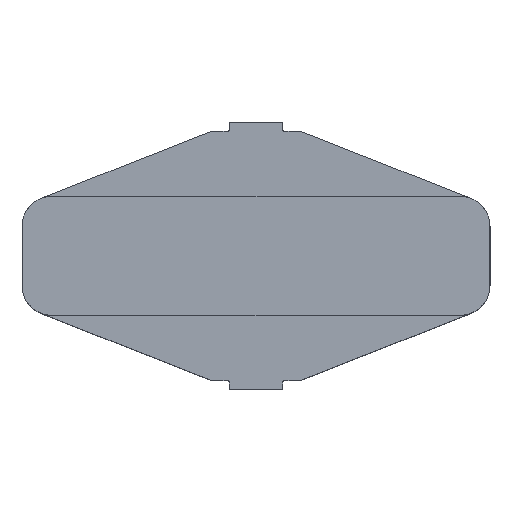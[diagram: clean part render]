
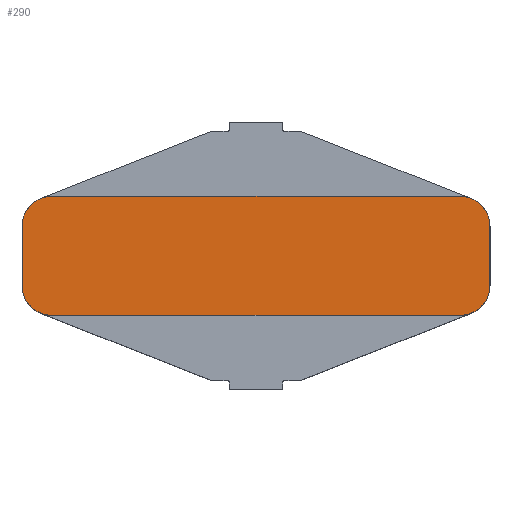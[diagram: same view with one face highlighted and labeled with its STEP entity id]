
A CAD part, top view. The second image highlights one B-rep face of the part: STEP entity #290.
In plain terms, the highlighted planar face has unit normal (0, 0, 1).
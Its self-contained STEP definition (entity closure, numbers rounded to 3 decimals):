
#5 = EDGE_CURVE ( 'NONE', #1210, #810, #294, .T. ) ;
#39 = EDGE_CURVE ( 'NONE', #810, #1369, #1218, .T. ) ;
#45 = DIRECTION ( 'NONE',  ( 0., -1., 0. ) ) ;
#78 = EDGE_CURVE ( 'NONE', #1343, #314, #310, .T. ) ;
#92 = ORIENTED_EDGE ( 'NONE', *, *, #1416, .T. ) ;
#132 = LINE ( 'NONE', #323, #444 ) ;
#147 = ORIENTED_EDGE ( 'NONE', *, *, #78, .T. ) ;
#163 = VERTEX_POINT ( 'NONE', #240 ) ;
#169 = CARTESIAN_POINT ( 'NONE',  ( -39.4, -5., 11.25 ) ) ;
#192 = CIRCLE ( 'NONE', #618, 5. ) ;
#195 = DIRECTION ( 'NONE',  ( 0., 1., 0. ) ) ;
#228 = VERTEX_POINT ( 'NONE', #477 ) ;
#240 = CARTESIAN_POINT ( 'NONE',  ( 34.4, -10., 11.25 ) ) ;
#257 = EDGE_CURVE ( 'NONE', #314, #838, #516, .T. ) ;
#274 = DIRECTION ( 'NONE',  ( 0., 0., 1. ) ) ;
#290 = ADVANCED_FACE ( 'NONE', ( #804 ), #1248, .T. ) ;
#294 = CIRCLE ( 'NONE', #425, 5. ) ;
#310 = LINE ( 'NONE', #869, #1136 ) ;
#314 = VERTEX_POINT ( 'NONE', #169 ) ;
#323 = CARTESIAN_POINT ( 'NONE',  ( -39.4, -10., 11.25 ) ) ;
#367 = AXIS2_PLACEMENT_3D ( 'NONE', #981, #274, #746 ) ;
#421 = DIRECTION ( 'NONE',  ( 1., 0., 0. ) ) ;
#422 = VECTOR ( 'NONE', #1265, 1000. ) ;
#425 = AXIS2_PLACEMENT_3D ( 'NONE', #1286, #952, #916 ) ;
#444 = VECTOR ( 'NONE', #760, 1000. ) ;
#477 = CARTESIAN_POINT ( 'NONE',  ( 39.4, -5., 11.25 ) ) ;
#515 = EDGE_CURVE ( 'NONE', #838, #163, #132, .T. ) ;
#516 = CIRCLE ( 'NONE', #1141, 5. ) ;
#557 = AXIS2_PLACEMENT_3D ( 'NONE', #1458, #614, #1096 ) ;
#604 = CARTESIAN_POINT ( 'NONE',  ( -34.4, 10., 11.25 ) ) ;
#609 = ORIENTED_EDGE ( 'NONE', *, *, #1288, .T. ) ;
#614 = DIRECTION ( 'NONE',  ( 0., 0., 1. ) ) ;
#618 = AXIS2_PLACEMENT_3D ( 'NONE', #1097, #1452, #662 ) ;
#662 = DIRECTION ( 'NONE',  ( 1., 0., 0. ) ) ;
#671 = ORIENTED_EDGE ( 'NONE', *, *, #39, .T. ) ;
#728 = EDGE_LOOP ( 'NONE', ( #147, #1158, #1393, #92, #609, #769, #671, #762 ) ) ;
#732 = CARTESIAN_POINT ( 'NONE',  ( 39.4, 10., 11.25 ) ) ;
#746 = DIRECTION ( 'NONE',  ( 1., 0., 0. ) ) ;
#760 = DIRECTION ( 'NONE',  ( 1., 0., 0. ) ) ;
#762 = ORIENTED_EDGE ( 'NONE', *, *, #857, .T. ) ;
#769 = ORIENTED_EDGE ( 'NONE', *, *, #5, .T. ) ;
#804 = FACE_OUTER_BOUND ( 'NONE', #728, .T. ) ;
#810 = VERTEX_POINT ( 'NONE', #1060 ) ;
#825 = CIRCLE ( 'NONE', #557, 5. ) ;
#834 = LINE ( 'NONE', #732, #1205 ) ;
#838 = VERTEX_POINT ( 'NONE', #1451 ) ;
#857 = EDGE_CURVE ( 'NONE', #1369, #1343, #192, .T. ) ;
#869 = CARTESIAN_POINT ( 'NONE',  ( -39.4, 10., 11.25 ) ) ;
#893 = DIRECTION ( 'NONE',  ( 0., 0., 1. ) ) ;
#916 = DIRECTION ( 'NONE',  ( 1., 0., 0. ) ) ;
#944 = CARTESIAN_POINT ( 'NONE',  ( -34.4, -5., 11.25 ) ) ;
#952 = DIRECTION ( 'NONE',  ( 0., 0., 1. ) ) ;
#981 = CARTESIAN_POINT ( 'NONE',  ( 0., 0., 11.25 ) ) ;
#1060 = CARTESIAN_POINT ( 'NONE',  ( 34.4, 10., 11.25 ) ) ;
#1071 = CARTESIAN_POINT ( 'NONE',  ( -39.4, 10., 11.25 ) ) ;
#1096 = DIRECTION ( 'NONE',  ( 1., 0., 0. ) ) ;
#1097 = CARTESIAN_POINT ( 'NONE',  ( -34.4, 5., 11.25 ) ) ;
#1117 = CARTESIAN_POINT ( 'NONE',  ( -39.4, 5., 11.25 ) ) ;
#1136 = VECTOR ( 'NONE', #45, 1000. ) ;
#1141 = AXIS2_PLACEMENT_3D ( 'NONE', #944, #893, #421 ) ;
#1158 = ORIENTED_EDGE ( 'NONE', *, *, #257, .T. ) ;
#1205 = VECTOR ( 'NONE', #195, 1000. ) ;
#1210 = VERTEX_POINT ( 'NONE', #1424 ) ;
#1218 = LINE ( 'NONE', #1071, #422 ) ;
#1248 = PLANE ( 'NONE',  #367 ) ;
#1265 = DIRECTION ( 'NONE',  ( -1., 0., 0. ) ) ;
#1286 = CARTESIAN_POINT ( 'NONE',  ( 34.4, 5., 11.25 ) ) ;
#1288 = EDGE_CURVE ( 'NONE', #228, #1210, #834, .T. ) ;
#1343 = VERTEX_POINT ( 'NONE', #1117 ) ;
#1369 = VERTEX_POINT ( 'NONE', #604 ) ;
#1393 = ORIENTED_EDGE ( 'NONE', *, *, #515, .T. ) ;
#1416 = EDGE_CURVE ( 'NONE', #163, #228, #825, .T. ) ;
#1424 = CARTESIAN_POINT ( 'NONE',  ( 39.4, 5., 11.25 ) ) ;
#1451 = CARTESIAN_POINT ( 'NONE',  ( -34.4, -10., 11.25 ) ) ;
#1452 = DIRECTION ( 'NONE',  ( 0., 0., 1. ) ) ;
#1458 = CARTESIAN_POINT ( 'NONE',  ( 34.4, -5., 11.25 ) ) ;
